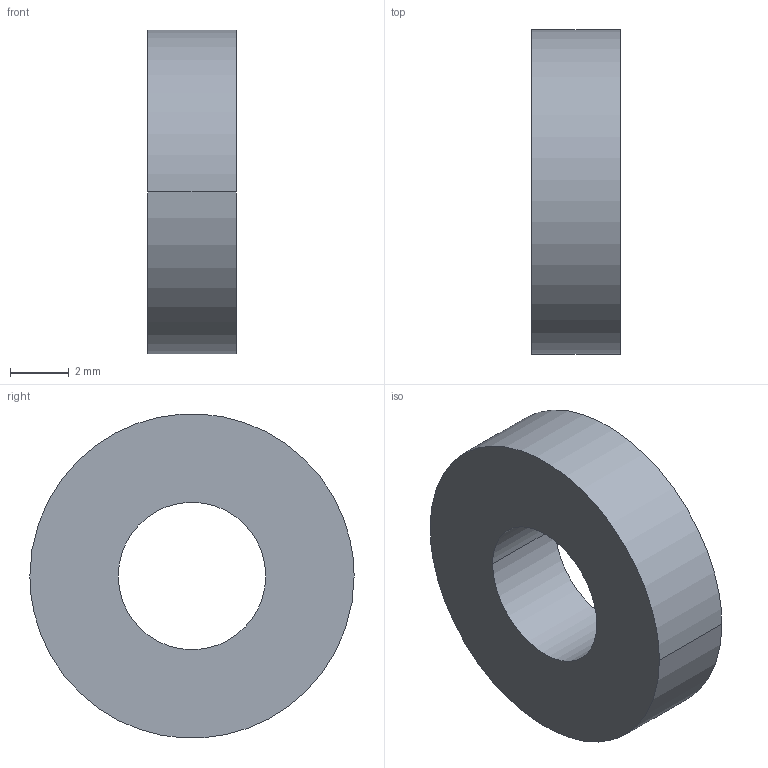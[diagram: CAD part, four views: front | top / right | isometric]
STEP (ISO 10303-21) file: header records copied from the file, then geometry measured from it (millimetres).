
FILE_DESCRIPTION(/* description */ (''),/* implementation_level */ '2;1');
FILE_NAME(/* name */ 'ESPACI~1',/* time_stamp */ '2019-04-01T21:28:59-03:00',/* author */ (''),/* organization */ (''),/* preprocessor_version */ 'ST-DEVELOPER v16.5',/* originating_system */ '',/* authorisation */ '');
FILE_SCHEMA (('AUTOMOTIVE_DESIGN'));
Length unit declared in the file: millimetre
Products named in the file (1): Document
Bounding box: 3 x 11 x 10.98 mm (x, y, z)
Volume: 226.9 mm3; surface area: 302.3 mm2
Topology: 1 solids, 1 shells, 6 faces, 12 edges, 8 vertices
Faces by surface type: bspline 4, plane 2
Entity records: 197 total; most frequent: CARTESIAN_POINT 100, ORIENTED_EDGE 24, EDGE_CURVE 12, EDGE_LOOP 8, VERTEX_POINT 8, ADVANCED_FACE 6, FACE_OUTER_BOUND 6, DIRECTION 6
